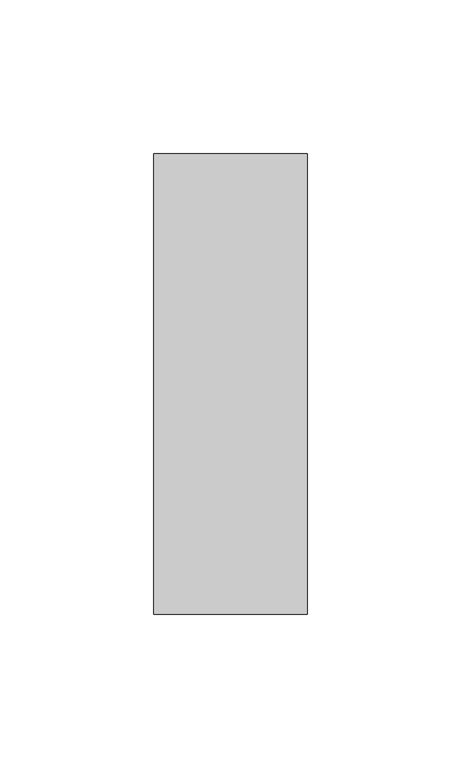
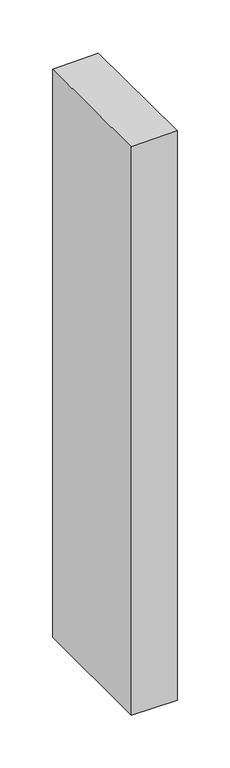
"""IFC4 building model written with IfcOpenShell, lengths in millimetres: member geometry, Прямоугольный импост : 50 x 150 мм."""

from ifc_helpers import new_model, si_unit, origin, place, context, project, spatial, faceted_brep, source, transform, mapped, element, save


def member_ae773491(model_context):
    return source(origin(), model_context, "Body", "Brep", [
        faceted_brep([(25.0, 75.0, -659.9150912), (25.0, -75.0, -659.9150912), (-25.0, -75.0, -659.9150912), (-25.0, 75.0, -659.9150912), (-25.0, 75.0, -0.8117799), (25.0, 75.0, 0.0312823), (-25.0, -75.0, -0.0312823), (25.0, -75.0, 0.8117799)], [[[0, 1, 2, 3]], [[4, 5, 0, 3]], [[6, 4, 3, 2]], [[7, 6, 2, 1]], [[5, 7, 1, 0]], [[5, 4, 6, 7]]]),
    ])


if __name__ == "__main__":
    model = new_model("IFC4")
    model_context = context("Model", 3, world=origin())
    ifc_project = project(units=[si_unit("LENGTHUNIT", "METRE", prefix="MILLI")], contexts=[model_context])
    site = spatial("IfcSite", under=ifc_project)
    building = spatial("IfcBuilding", under=site)
    placement = place(None, origin())
    member_shape = member_ae773491(model_context)
    element("IfcMember", 1, ObjectType="Прямоугольный импост : 50 x 150 мм", at=placement, inside=building, context=model_context, shape_type="MappedRepresentation", body=[
        mapped(member_shape, transform((0.0, 0.0, 0.0), x_axis=(1.0, 0.0, 0.0), y_axis=(0.0, 1.0, 0.0), z_axis=(0.0, 0.0, 1.0))),
    ])
    save(model, "model.ifc")
